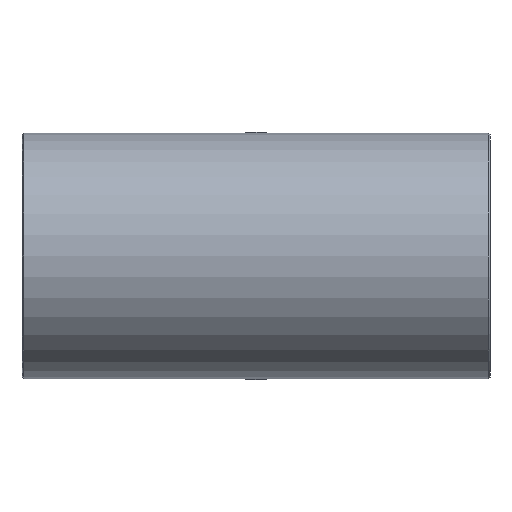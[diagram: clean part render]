
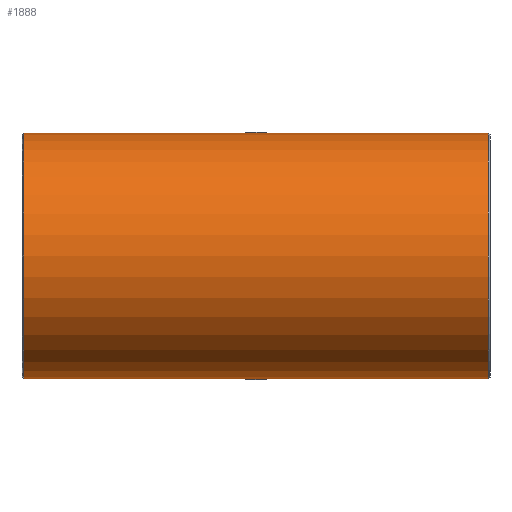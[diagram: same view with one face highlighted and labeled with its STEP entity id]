
A CAD part, front view. The second image highlights one B-rep face of the part: STEP entity #1888.
In plain terms, the highlighted cylindrical face has radius 38.175 mm (diameter 76.35 mm), a full revolution.
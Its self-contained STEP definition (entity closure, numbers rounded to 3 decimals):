
#1513=CARTESIAN_POINT('',(0.,8.83,37.14));
#1514=VERTEX_POINT('',#1513);
#1522=CARTESIAN_POINT('',(0.,8.829,37.14));
#1523=CARTESIAN_POINT('',(0.,8.829,37.14));
#1524=CARTESIAN_POINT('',(0.,8.829,37.14));
#1525=CARTESIAN_POINT('',(0.,8.829,37.14));
#1526=CARTESIAN_POINT('',(0.934,8.829,37.14));
#1527=CARTESIAN_POINT('',(2.335,8.995,37.101));
#1528=CARTESIAN_POINT('',(4.116,9.472,36.982));
#1529=CARTESIAN_POINT('',(5.829,10.076,36.824));
#1530=CARTESIAN_POINT('',(7.872,11.017,36.558));
#1531=CARTESIAN_POINT('',(9.815,12.099,36.212));
#1532=CARTESIAN_POINT('',(11.318,13.012,35.891));
#1533=CARTESIAN_POINT('',(12.779,13.939,35.545));
#1534=CARTESIAN_POINT('',(15.265,15.606,34.867));
#1535=CARTESIAN_POINT('',(18.685,18.066,33.685));
#1536=CARTESIAN_POINT('',(22.6,21.026,31.928));
#1537=CARTESIAN_POINT('',(26.326,23.926,29.821));
#1538=CARTESIAN_POINT('',(29.826,26.701,27.371));
#1539=CARTESIAN_POINT('',(32.752,29.049,24.844));
#1540=CARTESIAN_POINT('',(34.783,30.69,22.735));
#1541=CARTESIAN_POINT('',(36.062,31.728,21.244));
#1542=CARTESIAN_POINT('',(37.285,32.721,19.701));
#1543=CARTESIAN_POINT('',(38.713,33.885,17.661));
#1544=CARTESIAN_POINT('',(40.757,35.555,14.143));
#1545=CARTESIAN_POINT('',(42.149,36.696,10.784));
#1546=CARTESIAN_POINT('',(42.987,37.383,7.785));
#1547=CARTESIAN_POINT('',(43.452,37.766,5.744));
#1548=CARTESIAN_POINT('',(43.846,38.089,3.142));
#1549=CARTESIAN_POINT('',(44.003,38.219,-0.02));
#1550=CARTESIAN_POINT('',(43.841,38.086,-3.185));
#1551=CARTESIAN_POINT('',(43.365,37.695,-6.302));
#1552=CARTESIAN_POINT('',(42.588,37.056,-9.346));
#1553=CARTESIAN_POINT('',(41.539,36.196,-12.255));
#1554=CARTESIAN_POINT('',(39.799,34.771,-15.976));
#1555=CARTESIAN_POINT('',(37.6,32.976,-19.388));
#1556=CARTESIAN_POINT('',(35.097,30.944,-22.41));
#1557=CARTESIAN_POINT('',(32.391,28.757,-25.216));
#1558=CARTESIAN_POINT('',(29.789,26.672,-27.378));
#1559=CARTESIAN_POINT('',(27.439,24.811,-29.022));
#1560=CARTESIAN_POINT('',(25.843,23.554,-30.062));
#1561=CARTESIAN_POINT('',(22.988,21.326,-31.731));
#1562=CARTESIAN_POINT('',(18.68,18.047,-33.74));
#1563=CARTESIAN_POINT('',(14.095,14.768,-35.248));
#1564=CARTESIAN_POINT('',(10.203,12.298,-36.156));
#1565=CARTESIAN_POINT('',(7.44,10.785,-36.628));
#1566=CARTESIAN_POINT('',(5.232,9.844,-36.886));
#1567=CARTESIAN_POINT('',(3.674,9.344,-37.014));
#1568=CARTESIAN_POINT('',(2.079,8.96,-37.109));
#1569=CARTESIAN_POINT('',(0.002,8.742,-37.16));
#1570=CARTESIAN_POINT('',(-2.492,9.004,-37.099));
#1571=CARTESIAN_POINT('',(-4.85,9.682,-36.93));
#1572=CARTESIAN_POINT('',(-7.451,10.789,-36.627));
#1573=CARTESIAN_POINT('',(-10.201,12.297,-36.157));
#1574=CARTESIAN_POINT('',(-13.129,14.153,-35.474));
#1575=CARTESIAN_POINT('',(-15.941,16.09,-34.641));
#1576=CARTESIAN_POINT('',(-19.569,18.721,-33.328));
#1577=CARTESIAN_POINT('',(-22.598,21.03,-31.912));
#1578=CARTESIAN_POINT('',(-25.075,22.954,-30.511));
#1579=CARTESIAN_POINT('',(-26.691,24.219,-29.528));
#1580=CARTESIAN_POINT('',(-29.452,26.402,-27.66));
#1581=CARTESIAN_POINT('',(-32.42,28.781,-25.188));
#1582=CARTESIAN_POINT('',(-35.121,30.964,-22.383));
#1583=CARTESIAN_POINT('',(-37.624,32.995,-19.356));
#1584=CARTESIAN_POINT('',(-39.81,34.779,-15.953));
#1585=CARTESIAN_POINT('',(-41.536,36.194,-12.261));
#1586=CARTESIAN_POINT('',(-42.504,36.987,-9.58));
#1587=CARTESIAN_POINT('',(-43.179,37.542,-7.054));
#1588=CARTESIAN_POINT('',(-43.768,38.025,-3.969));
#1589=CARTESIAN_POINT('',(-44.01,38.224,-0.801));
#1590=CARTESIAN_POINT('',(-43.891,38.127,2.358));
#1591=CARTESIAN_POINT('',(-43.624,37.907,4.718));
#1592=CARTESIAN_POINT('',(-43.184,37.546,7.031));
#1593=CARTESIAN_POINT('',(-42.378,36.884,10.056));
#1594=CARTESIAN_POINT('',(-41.252,35.961,12.962));
#1595=CARTESIAN_POINT('',(-39.873,34.832,15.673));
#1596=CARTESIAN_POINT('',(-38.33,33.572,18.272));
#1597=CARTESIAN_POINT('',(-36.118,31.771,21.299));
#1598=CARTESIAN_POINT('',(-33.608,29.739,23.998));
#1599=CARTESIAN_POINT('',(-31.477,28.026,25.944));
#1600=CARTESIAN_POINT('',(-29.254,26.247,27.771));
#1601=CARTESIAN_POINT('',(-25.137,22.986,30.652));
#1602=CARTESIAN_POINT('',(-20.653,19.518,32.908));
#1603=CARTESIAN_POINT('',(-16.599,16.566,34.406));
#1604=CARTESIAN_POINT('',(-13.839,14.628,35.289));
#1605=CARTESIAN_POINT('',(-10.948,12.732,36.011));
#1606=CARTESIAN_POINT('',(-7.874,11.018,36.558));
#1607=CARTESIAN_POINT('',(-5.428,9.891,36.876));
#1608=CARTESIAN_POINT('',(-2.804,9.051,37.088));
#1609=CARTESIAN_POINT('',(-0.934,8.829,37.14));
#1610=CARTESIAN_POINT('',(0.,8.829,37.14));
#1611=B_SPLINE_CURVE_WITH_KNOTS('',3,(#1522,#1523,#1524,#1525,#1526,#1527,#1528,#1529,#1530,#1531,#1532,#1533,#1534,#1535,#1536,#1537,#1538,#1539,#1540,#1541,#1542,#1543,#1544,#1545,#1546,#1547,#1548,#1549,#1550,#1551,#1552,#1553,#1554,#1555,#1556,#1557,#1558,#1559,#1560,#1561,#1562,#1563,#1564,#1565,#1566,#1567,#1568,#1569,#1570,#1571,#1572,#1573,#1574,#1575,#1576,#1577,#1578,#1579,#1580,#1581,#1582,#1583,#1584,#1585,#1586,#1587,#1588,#1589,#1590,#1591,#1592,#1593,#1594,#1595,#1596,#1597,#1598,#1599,#1600,#1601,#1602,#1603,#1604,#1605,#1606,#1607,#1608,#1609,#1610),.UNSPECIFIED.,.T.,.U.,(4,3,1,1,1,1,1,1,1,1,1,1,1,1,1,1,1,1,1,1,1,1,1,1,1,1,1,1,1,1,1,1,1,1,1,1,1,1,1,1,1,1,1,1,1,1,1,1,1,1,1,1,1,1,1,1,1,1,1,1,1,1,1,1,1,1,1,1,1,1,1,1,1,1,1,1,1,1,1,1,1,1,1,1,4),(-26.395,-26.395,-26.159,-26.041,-25.923,-25.688,-25.452,-25.334,-25.216,-24.981,-24.509,-24.038,-23.567,-23.095,-22.624,-22.31,-22.153,-21.996,-21.681,-21.367,-20.739,-20.582,-20.425,-20.11,-19.796,-19.482,-19.168,-18.853,-18.539,-18.225,-17.597,-17.282,-16.968,-16.34,-16.183,-16.025,-15.711,-15.083,-14.454,-14.14,-13.826,-13.616,-13.512,-13.407,-13.197,-12.988,-12.778,-12.569,-12.255,-11.941,-11.626,-11.312,-10.684,-10.527,-10.369,-10.055,-9.427,-9.112,-8.798,-8.17,-7.856,-7.541,-7.306,-7.07,-6.599,-6.363,-6.127,-5.892,-5.656,-5.185,-4.949,-4.713,-4.242,-3.771,-3.535,-3.299,-2.828,-1.885,-1.65,-1.414,-0.943,-0.707,-0.471,-0.236,0.),.UNSPECIFIED.);
#1612=EDGE_CURVE('',#1514,#1514,#1611,.T.);
#1823=CARTESIAN_POINT('',(72.3,38.175,0.));
#1824=VERTEX_POINT('',#1823);
#1825=CARTESIAN_POINT('',(72.3,0.0,0.0));
#1826=DIRECTION('',(1.0,0.0,0.0));
#1827=DIRECTION('',(0.0,-1.0,0.0));
#1828=AXIS2_PLACEMENT_3D('',#1825,#1826,#1827);
#1829=CIRCLE('',#1828,38.175);
#1830=EDGE_CURVE('',#1824,#1824,#1829,.T.);
#1866=CARTESIAN_POINT('',(0.,0.0,0.0));
#1867=DIRECTION('',(1.0,0.0,0.0));
#1868=DIRECTION('',(0.0,1.0,0.0));
#1869=AXIS2_PLACEMENT_3D('',#1866,#1867,#1868);
#1870=CYLINDRICAL_SURFACE('',#1869,38.175);
#1871=CARTESIAN_POINT('',(-72.3,38.175,0.));
#1872=VERTEX_POINT('',#1871);
#1873=CARTESIAN_POINT('',(-72.3,0.0,0.0));
#1874=DIRECTION('',(-1.0,0.0,0.0));
#1875=DIRECTION('',(0.0,-1.0,0.0));
#1876=AXIS2_PLACEMENT_3D('',#1873,#1874,#1875);
#1877=CIRCLE('',#1876,38.175);
#1878=EDGE_CURVE('',#1872,#1872,#1877,.T.);
#1879=ORIENTED_EDGE('',*,*,#1878,.F.);
#1880=EDGE_LOOP('',(#1879));
#1881=FACE_OUTER_BOUND('',#1880,.T.);
#1882=ORIENTED_EDGE('',*,*,#1612,.F.);
#1883=EDGE_LOOP('',(#1882));
#1884=FACE_BOUND('',#1883,.T.);
#1885=ORIENTED_EDGE('',*,*,#1830,.F.);
#1886=EDGE_LOOP('',(#1885));
#1887=FACE_BOUND('',#1886,.T.);
#1888=ADVANCED_FACE('',(#1881,#1884,#1887),#1870,.T.);
